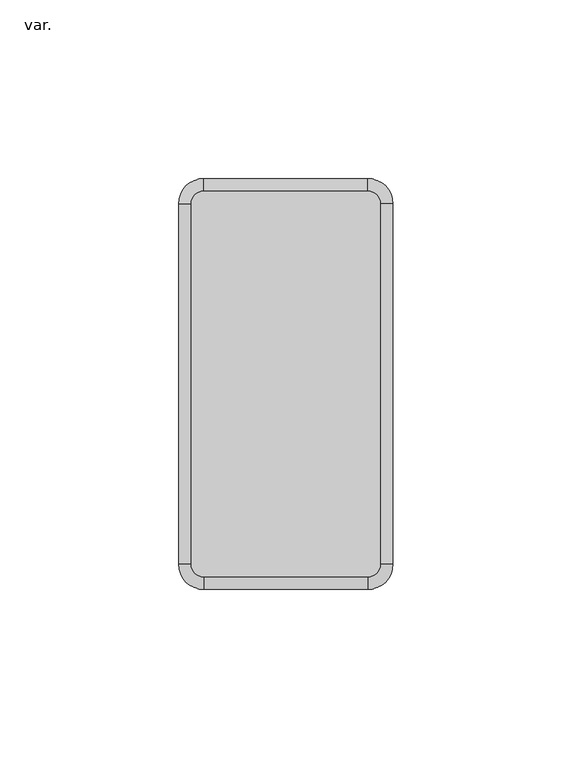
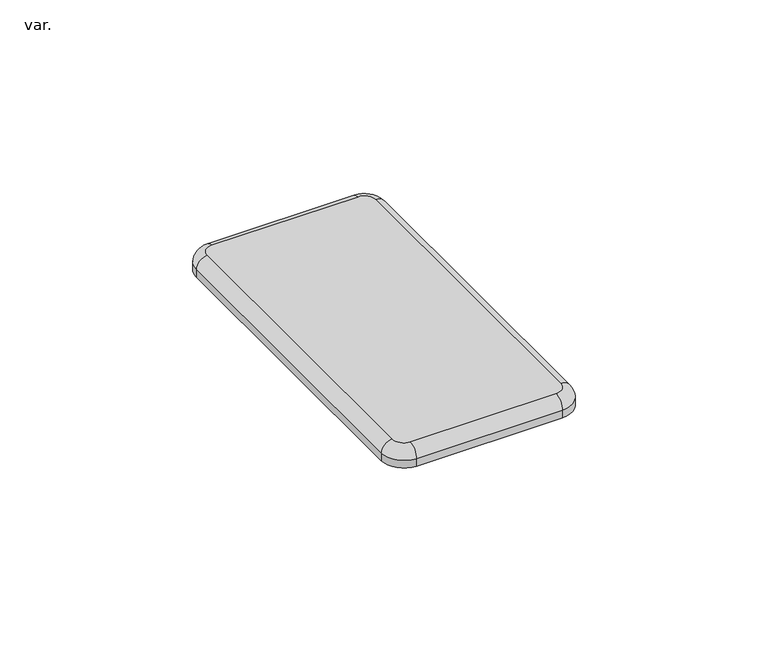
"""IFC4 building model written with IfcOpenShell, lengths in millimetres: pipe fitting geometry, AmancoWavin_ConexõesdoConduite_LinhaEletricaeZNãoUsarElectroAmancoTampaCega : var.."""

from ifc_helpers import new_model, si_unit, point, frame, origin, place, context, project, spatial, circle_curve, ellipse_curve, trimmed, source, transform, mapped, element, save
from ifc_brep_helpers import plane_surface, cylinder_surface, revolved_surface, advanced_brep


def var_ea92140c(model_context):
    return source(origin(), model_context, "Body", "AdvancedBrep", [
        advanced_brep(
        [(-26.5, -50.5, 6.0), (-23.0, -54.0, 6.0), (23.0, -54.0, 6.0), (26.5, -50.5, 6.0), (26.5, 50.5, 6.0), (23.0, 54.0, 6.0), (-23.0, 54.0, 6.0), (-26.5, 50.5, 6.0), (23.0, 57.5, 0.0), (30.0, 50.5, 0.0), (30.0, -50.5, 0.0), (23.0, -57.5, 0.0), (-23.0, -57.5, 0.0), (-30.0, -50.5, 0.0), (-30.0, 50.5, 0.0), (-23.0, 57.5, 0.0), (-23.0, 57.5, 2.5), (23.0, 57.5, 2.5), (-30.0, 50.5, 2.5000018), (-30.0, -50.5, 2.5000018), (-23.0, -57.5, 2.5000018), (23.0, -57.5, 2.5), (30.0, -50.5, 2.5000018), (30.0, 50.5, 2.5)],
        [
            (0, 1, circle_curve(frame((-23.0, -50.5, 6.0), z_axis=(0.0, 0.0, 1.0), x_axis=(-1.0, 0.0, 0.0)), 3.5)),
            (1, 2),
            (2, 3, circle_curve(frame((23.0, -50.5, 6.0), z_axis=(0.0, 0.0, 1.0), x_axis=(0.0, -1.0, 0.0)), 3.5)),
            (3, 4),
            (4, 5, circle_curve(frame((23.0, 50.5, 6.0), z_axis=(0.0, 0.0, 1.0), x_axis=(1.0, 0.0, 0.0)), 3.5)),
            (5, 6),
            (6, 7, circle_curve(frame((-23.0, 50.5, 6.0), z_axis=(0.0, 0.0, 1.0), x_axis=(0.0, 1.0, 0.0)), 3.5)),
            (7, 0),
            (8, 9, circle_curve(frame((23.0, 50.5, 0.0), z_axis=(0.0, 0.0, -1.0), x_axis=(1.0, 0.0, 0.0)), 7.0)),
            (9, 10),
            (10, 11, circle_curve(frame((23.0, -50.5, 0.0), z_axis=(0.0, 0.0, -1.0), x_axis=(1.0, 0.0, 0.0)), 7.0)),
            (11, 12),
            (12, 13, circle_curve(frame((-23.0, -50.5, 0.0), z_axis=(0.0, 0.0, -1.0), x_axis=(1.0, 0.0, 0.0)), 7.0)),
            (13, 14),
            (14, 15, circle_curve(frame((-23.0, 50.5, 0.0), z_axis=(0.0, 0.0, -1.0), x_axis=(1.0, 0.0, 0.0)), 7.0)),
            (15, 8),
            (15, 16),
            (16, 17),
            (17, 8),
            (14, 18),
            (18, 16, circle_curve(frame((-23.0, 50.5, 2.5), z_axis=(0.0, 0.0, -1.0), x_axis=(1.0, 0.0, 0.0)), 7.0)),
            (13, 19),
            (19, 18),
            (12, 20),
            (20, 19, circle_curve(frame((-23.0, -50.5, 2.5), z_axis=(0.0, 0.0, -1.0), x_axis=(1.0, 0.0, 0.0)), 7.0)),
            (11, 21),
            (21, 20),
            (10, 22),
            (22, 21, circle_curve(frame((23.0, -50.5, 2.5), z_axis=(0.0, 0.0, -1.0), x_axis=(1.0, 0.0, 0.0)), 7.0)),
            (9, 23),
            (23, 22),
            (17, 23, circle_curve(frame((23.0, 50.5, 2.5), z_axis=(0.0, 0.0, -1.0), x_axis=(1.0, 0.0, 0.0)), 7.0)),
            (20, 1, circle_curve(frame((-23.0, -54.0, 2.5), z_axis=(-1.0, 0.0, 0.0), x_axis=(0.0, 1.0, 0.0)), 3.5)),
            (0, 19, circle_curve(frame((-26.5, -50.5, 2.5), z_axis=(0.0, -1.0, 0.0), x_axis=(1.0, 0.0, 0.0)), 3.5)),
            (21, 2, circle_curve(frame((23.0, -54.0, 2.5), z_axis=(-1.0, 0.0, 0.0), x_axis=(0.0, 1.0, 0.0)), 3.5)),
            (22, 3, circle_curve(frame((26.5, -50.5, 2.5), z_axis=(0.0, -1.0, 0.0), x_axis=(-1.0, 0.0, 0.0)), 3.5)),
            (23, 4, circle_curve(frame((26.5, 50.5, 2.5), z_axis=(0.0, -1.0, 0.0), x_axis=(-1.0, 0.0, 0.0)), 3.5)),
            (17, 5, circle_curve(frame((23.0, 54.0, 2.5), z_axis=(1.0, 0.0, 0.0), x_axis=(0.0, -1.0, 0.0)), 3.5)),
            (16, 6, circle_curve(frame((-23.0, 54.0, 2.5), z_axis=(1.0, 0.0, 0.0), x_axis=(0.0, -1.0, 0.0)), 3.5)),
            (18, 7, circle_curve(frame((-26.5, 50.5, 2.5), z_axis=(0.0, 1.0, 0.0), x_axis=(1.0, 0.0, 0.0)), 3.5)),
        ],
        [
            plane_surface(frame((-23.0, 57.5, 6.0), z_axis=(0.0, 0.0, 1.0), x_axis=(-1.0, 0.0, 0.0))),
            plane_surface(frame((-23.0, 57.5, 0.0), z_axis=(0.0, 0.0, -1.0), x_axis=(1.0, 0.0, 0.0))),
            plane_surface(frame((23.0, 57.5, 6.0), z_axis=(0.0, 1.0, 0.0), x_axis=(0.0, 0.0, -1.0))),
            cylinder_surface(frame((-23.0, 50.5, 0.0), z_axis=(0.0, 0.0, 1.0), x_axis=(1.0, 0.0, 0.0)), 7.0),
            plane_surface(frame((-30.0, 50.5, 6.0), z_axis=(-1.0, 0.0, 0.0), x_axis=(0.0, 0.0, -1.0))),
            cylinder_surface(frame((-23.0, -50.5, 0.0), z_axis=(0.0, 0.0, 1.0), x_axis=(1.0, 0.0, 0.0)), 7.0),
            plane_surface(frame((-23.0, -57.5, 6.0), z_axis=(0.0, -1.0, 0.0), x_axis=(0.0, 0.0, -1.0))),
            cylinder_surface(frame((23.0, -50.5, 0.0), z_axis=(0.0, 0.0, 1.0), x_axis=(1.0, 0.0, 0.0)), 7.0),
            plane_surface(frame((30.0, -50.5, 6.0), z_axis=(1.0, 0.0, 0.0), x_axis=(0.0, 0.0, -1.0))),
            cylinder_surface(frame((23.0, 50.5, 0.0), z_axis=(0.0, 0.0, 1.0), x_axis=(1.0, 0.0, 0.0)), 7.0),
            revolved_surface(trimmed(ellipse_curve(frame((-26.5, -50.5, 2.5), z_axis=(0.0, 1.0, 0.0), x_axis=(1.0, 0.0, 0.0)), 3.5, 3.5), [point((-30.0, -50.5, 2.5))], [point((-26.5, -50.5, 6.0))], True, "CARTESIAN"), (-23.0, -50.5, 6.0), (0.0, 0.0, 1.0)),
            cylinder_surface(frame((-23.0, -54.0, 2.5), z_axis=(1.0, 0.0, 0.0), x_axis=(0.0, 1.0, 0.0)), 3.5),
            revolved_surface(trimmed(ellipse_curve(frame((23.0, -54.0, 2.5), z_axis=(-1.0, 0.0, 0.0), x_axis=(0.0, 1.0, 0.0)), 3.5, 3.5), [point((23.0, -57.5, 2.5))], [point((23.0, -54.0, 6.0))], True, "CARTESIAN"), (23.0, -50.5, 6.0), (0.0, 0.0, 1.0)),
            cylinder_surface(frame((26.5, -50.5, 2.5), z_axis=(0.0, 1.0, 0.0), x_axis=(-1.0, 0.0, 0.0)), 3.5),
            revolved_surface(trimmed(ellipse_curve(frame((26.5, 50.5, 2.5), z_axis=(0.0, -1.0, 0.0), x_axis=(-1.0, 0.0, 0.0)), 3.5, 3.5), [point((30.0, 50.5, 2.5))], [point((26.5, 50.5, 6.0))], True, "CARTESIAN"), (23.0, 50.5, 6.0), (0.0, 0.0, 1.0)),
            cylinder_surface(frame((23.0, 54.0, 2.5), z_axis=(-1.0, 0.0, 0.0), x_axis=(0.0, -1.0, 0.0)), 3.5),
            revolved_surface(trimmed(ellipse_curve(frame((-23.0, 54.0, 2.5), z_axis=(1.0, 0.0, 0.0), x_axis=(0.0, -1.0, 0.0)), 3.5, 3.5), [point((-23.0, 57.5, 2.5))], [point((-23.0, 54.0, 6.0))], True, "CARTESIAN"), (-23.0, 50.5, 6.0), (0.0, 0.0, 1.0)),
            cylinder_surface(frame((-26.5, 50.5, 2.5), z_axis=(0.0, -1.0, 0.0), x_axis=(1.0, 0.0, 0.0)), 3.5),
        ],
        [
            (0, [[1, 2, 3, 4, 5, 6, 7, 8]]),
            (1, [[9, 10, 11, 12, 13, 14, 15, 16]]),
            (2, [[-16, 17, 18, 19]]),
            (3, [[-15, 20, 21, -17]]),
            (4, [[-14, 22, 23, -20]]),
            (5, [[-13, 24, 25, -22]]),
            (6, [[-12, 26, 27, -24]]),
            (7, [[-11, 28, 29, -26]]),
            (8, [[-10, 30, 31, -28]]),
            (9, [[-9, -19, 32, -30]]),
            (10, [[33, -1, 34, -25]]),
            (11, [[-33, -27, 35, -2]]),
            (12, [[-35, -29, 36, -3]]),
            (13, [[-36, -31, 37, -4]]),
            (14, [[-37, -32, 38, -5]]),
            (15, [[-38, -18, 39, -6]]),
            (16, [[-39, -21, 40, -7]]),
            (17, [[-34, -8, -40, -23]]),
        ],
    ),
    ])


if __name__ == "__main__":
    model = new_model("IFC4")
    model_context = context("Model", 3, world=origin())
    ifc_project = project(units=[si_unit("LENGTHUNIT", "METRE", prefix="MILLI")], contexts=[model_context])
    site = spatial("IfcSite", under=ifc_project)
    building = spatial("IfcBuilding", under=site)
    placement = place(None, origin())
    var_shape = var_ea92140c(model_context)
    element("IfcPipeFitting", 1, ObjectType="AmancoWavin_ConexõesdoConduite_LinhaEletricaeZNãoUsarElectroAmancoTampaCega : var.", at=placement, inside=building, context=model_context, shape_type="MappedRepresentation", body=[
        mapped(var_shape, transform((0.0, 0.0, 0.0), x_axis=(1.0, 0.0, 0.0), y_axis=(0.0, 1.0, 0.0), z_axis=(0.0, 0.0, 1.0))),
    ])
    save(model, "model.ifc")
